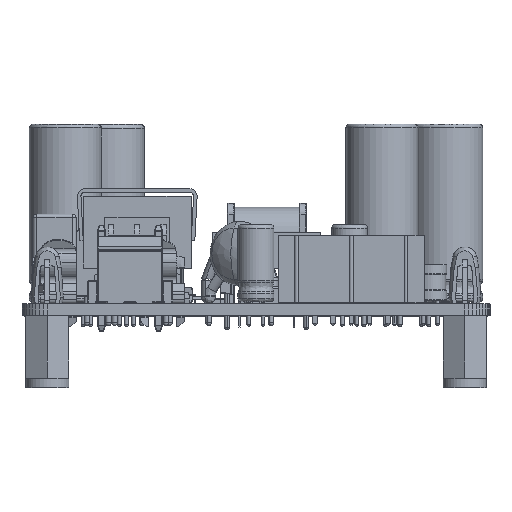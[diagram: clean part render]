
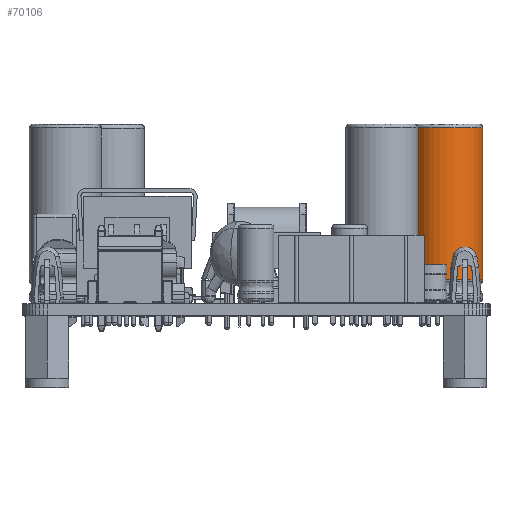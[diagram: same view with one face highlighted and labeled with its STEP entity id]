
A CAD part, top view. The second image highlights one B-rep face of the part: STEP entity #70106.
In plain terms, the highlighted cylindrical face has radius 5 mm (diameter 10 mm), a partial arc.
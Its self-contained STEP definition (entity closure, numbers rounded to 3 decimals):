
#919 = CARTESIAN_POINT ( 'NONE',  ( 54., 24.495, 24.5 ) ) ;
#5713 = LINE ( 'NONE', #87913, #80381 ) ;
#5757 = EDGE_CURVE ( 'NONE', #41975, #34525, #55094, .T. ) ;
#6612 = DIRECTION ( 'NONE',  ( 1., 0., 0. ) ) ;
#8204 = CARTESIAN_POINT ( 'NONE',  ( 59., 24.495, 3.354 ) ) ;
#15630 = CARTESIAN_POINT ( 'NONE',  ( 64., 24.495, 3.354 ) ) ;
#19162 = VERTEX_POINT ( 'NONE', #86161 ) ;
#32161 = ORIENTED_EDGE ( 'NONE', *, *, #45237, .F. ) ;
#32219 = EDGE_CURVE ( 'NONE', #46377, #41975, #5713, .T. ) ;
#34525 = VERTEX_POINT ( 'NONE', #15630 ) ;
#39109 = CARTESIAN_POINT ( 'NONE',  ( 59., 24.495, 24.5 ) ) ;
#39447 = DIRECTION ( 'NONE',  ( 0., 0., -1. ) ) ;
#40840 = ORIENTED_EDGE ( 'NONE', *, *, #90146, .T. ) ;
#41958 = AXIS2_PLACEMENT_3D ( 'NONE', #8204, #73299, #97338 ) ;
#41975 = VERTEX_POINT ( 'NONE', #61839 ) ;
#45237 = EDGE_CURVE ( 'NONE', #19162, #34525, #61113, .T. ) ;
#46377 = VERTEX_POINT ( 'NONE', #919 ) ;
#55094 = CIRCLE ( 'NONE', #41958, 5. ) ;
#61113 = LINE ( 'NONE', #77870, #88878 ) ;
#61839 = CARTESIAN_POINT ( 'NONE',  ( 54., 24.495, 3.354 ) ) ;
#68750 = EDGE_LOOP ( 'NONE', ( #40840, #69253, #78250, #32161 ) ) ;
#69253 = ORIENTED_EDGE ( 'NONE', *, *, #32219, .T. ) ;
#70106 = ADVANCED_FACE ( 'NONE', ( #95472 ), #92838, .T. ) ;
#71167 = CARTESIAN_POINT ( 'NONE',  ( 59., 24.495, 25. ) ) ;
#71366 = DIRECTION ( 'NONE',  ( 0., 0., -1. ) ) ;
#73299 = DIRECTION ( 'NONE',  ( 0., 0., 1. ) ) ;
#77512 = DIRECTION ( 'NONE',  ( 0., 0., -1. ) ) ;
#77870 = CARTESIAN_POINT ( 'NONE',  ( 64., 24.495, 25. ) ) ;
#78250 = ORIENTED_EDGE ( 'NONE', *, *, #5757, .T. ) ;
#79959 = DIRECTION ( 'NONE',  ( 0., 0., -1. ) ) ;
#80381 = VECTOR ( 'NONE', #39447, 1000. ) ;
#86161 = CARTESIAN_POINT ( 'NONE',  ( 64., 24.495, 24.5 ) ) ;
#87913 = CARTESIAN_POINT ( 'NONE',  ( 54., 24.495, 25. ) ) ;
#88878 = VECTOR ( 'NONE', #77512, 1000. ) ;
#89717 = AXIS2_PLACEMENT_3D ( 'NONE', #71167, #79959, #104763 ) ;
#90146 = EDGE_CURVE ( 'NONE', #19162, #46377, #94595, .T. ) ;
#92838 = CYLINDRICAL_SURFACE ( 'NONE', #89717, 5. ) ;
#94595 = CIRCLE ( 'NONE', #96123, 5. ) ;
#95472 = FACE_OUTER_BOUND ( 'NONE', #68750, .T. ) ;
#96123 = AXIS2_PLACEMENT_3D ( 'NONE', #39109, #71366, #6612 ) ;
#97338 = DIRECTION ( 'NONE',  ( 1., 0., 0. ) ) ;
#104763 = DIRECTION ( 'NONE',  ( 1., 0., 0. ) ) ;
